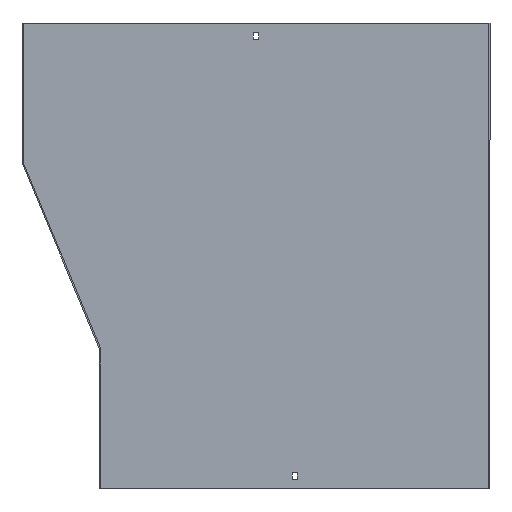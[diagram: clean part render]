
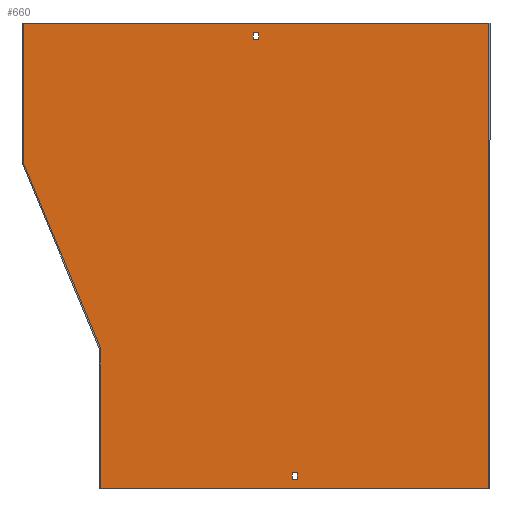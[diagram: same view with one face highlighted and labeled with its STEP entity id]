
A CAD part, front view. The second image highlights one B-rep face of the part: STEP entity #660.
In plain terms, the highlighted planar face has unit normal (0, -1, 0).
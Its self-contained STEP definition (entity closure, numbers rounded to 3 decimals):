
#4 = LINE ( 'NONE', #465, #566 ) ;
#12 = EDGE_CURVE ( 'NONE', #690, #378, #696, .T. ) ;
#20 = VECTOR ( 'NONE', #622, 1000. ) ;
#21 = VECTOR ( 'NONE', #139, 1000. ) ;
#22 = EDGE_CURVE ( 'NONE', #350, #256, #416, .T. ) ;
#31 = EDGE_CURVE ( 'NONE', #354, #49, #34, .T. ) ;
#32 = LINE ( 'NONE', #140, #530 ) ;
#34 = LINE ( 'NONE', #653, #591 ) ;
#46 = VECTOR ( 'NONE', #447, 1000. ) ;
#49 = VERTEX_POINT ( 'NONE', #649 ) ;
#55 = EDGE_CURVE ( 'NONE', #256, #690, #144, .T. ) ;
#62 = CARTESIAN_POINT ( 'NONE',  ( 3.25, -1.5, -21. ) ) ;
#65 = CARTESIAN_POINT ( 'NONE',  ( 0., -1.5, 0. ) ) ;
#66 = CARTESIAN_POINT ( 'NONE',  ( -300., -1.5, 0. ) ) ;
#71 = LINE ( 'NONE', #399, #485 ) ;
#72 = EDGE_CURVE ( 'NONE', #538, #610, #427, .T. ) ;
#79 = EDGE_CURVE ( 'NONE', #412, #354, #71, .T. ) ;
#85 = VECTOR ( 'NONE', #532, 1000. ) ;
#104 = EDGE_CURVE ( 'NONE', #524, #214, #276, .T. ) ;
#105 = ORIENTED_EDGE ( 'NONE', *, *, #72, .F. ) ;
#108 = DIRECTION ( 'NONE',  ( -1., 0., 0. ) ) ;
#119 = PLANE ( 'NONE',  #704 ) ;
#133 = ORIENTED_EDGE ( 'NONE', *, *, #136, .F. ) ;
#136 = EDGE_CURVE ( 'NONE', #378, #524, #676, .T. ) ;
#139 = DIRECTION ( 'NONE',  ( -1., 0., 0. ) ) ;
#140 = CARTESIAN_POINT ( 'NONE',  ( 53.25, -1.5, 0. ) ) ;
#144 = LINE ( 'NONE', #484, #294 ) ;
#154 = DIRECTION ( 'NONE',  ( 0., 0., 1. ) ) ;
#158 = DIRECTION ( 'NONE',  ( -1., 0., 0. ) ) ;
#159 = ORIENTED_EDGE ( 'NONE', *, *, #295, .F. ) ;
#164 = ORIENTED_EDGE ( 'NONE', *, *, #682, .F. ) ;
#168 = EDGE_LOOP ( 'NONE', ( #209, #133, #600, #204, #199, #159 ) ) ;
#175 = DIRECTION ( 'NONE',  ( 0., 0., 1. ) ) ;
#185 = CARTESIAN_POINT ( 'NONE',  ( 300., -1.5, -600. ) ) ;
#195 = DIRECTION ( 'NONE',  ( 0., 0., -1. ) ) ;
#199 = ORIENTED_EDGE ( 'NONE', *, *, #22, .F. ) ;
#204 = ORIENTED_EDGE ( 'NONE', *, *, #55, .F. ) ;
#209 = ORIENTED_EDGE ( 'NONE', *, *, #104, .F. ) ;
#214 = VERTEX_POINT ( 'NONE', #355 ) ;
#226 = DIRECTION ( 'NONE',  ( 0., 0., 1. ) ) ;
#227 = CARTESIAN_POINT ( 'NONE',  ( -200., -1.5, -419.7 ) ) ;
#237 = DIRECTION ( 'NONE',  ( 0., 0., 1. ) ) ;
#248 = ORIENTED_EDGE ( 'NONE', *, *, #605, .F. ) ;
#249 = ORIENTED_EDGE ( 'NONE', *, *, #31, .F. ) ;
#256 = VERTEX_POINT ( 'NONE', #302 ) ;
#260 = EDGE_CURVE ( 'NONE', #332, #412, #32, .T. ) ;
#271 = ORIENTED_EDGE ( 'NONE', *, *, #79, .F. ) ;
#276 = LINE ( 'NONE', #507, #46 ) ;
#282 = FACE_BOUND ( 'NONE', #307, .T. ) ;
#294 = VECTOR ( 'NONE', #154, 1000. ) ;
#295 = EDGE_CURVE ( 'NONE', #214, #350, #686, .T. ) ;
#302 = CARTESIAN_POINT ( 'NONE',  ( -200., -1.5, -600. ) ) ;
#307 = EDGE_LOOP ( 'NONE', ( #249, #271, #357, #527 ) ) ;
#318 = CARTESIAN_POINT ( 'NONE',  ( 0., -1.5, -12. ) ) ;
#332 = VERTEX_POINT ( 'NONE', #718 ) ;
#346 = EDGE_LOOP ( 'NONE', ( #519, #248, #105, #164 ) ) ;
#347 = FACE_OUTER_BOUND ( 'NONE', #168, .T. ) ;
#348 = VECTOR ( 'NONE', #400, 1000. ) ;
#350 = VERTEX_POINT ( 'NONE', #557 ) ;
#354 = VERTEX_POINT ( 'NONE', #536 ) ;
#355 = CARTESIAN_POINT ( 'NONE',  ( 300., -1.5, 0. ) ) ;
#357 = ORIENTED_EDGE ( 'NONE', *, *, #260, .F. ) ;
#371 = CARTESIAN_POINT ( 'NONE',  ( 3.25, -1.5, 0. ) ) ;
#378 = VERTEX_POINT ( 'NONE', #714 ) ;
#399 = CARTESIAN_POINT ( 'NONE',  ( 0., -1.5, -579. ) ) ;
#400 = DIRECTION ( 'NONE',  ( 1., 0., 0. ) ) ;
#407 = CARTESIAN_POINT ( 'NONE',  ( -3.25, -1.5, -21. ) ) ;
#412 = VERTEX_POINT ( 'NONE', #664 ) ;
#416 = LINE ( 'NONE', #488, #21 ) ;
#427 = LINE ( 'NONE', #371, #706 ) ;
#447 = DIRECTION ( 'NONE',  ( 1., 0., 0. ) ) ;
#464 = CARTESIAN_POINT ( 'NONE',  ( 0., -1.5, -21. ) ) ;
#465 = CARTESIAN_POINT ( 'NONE',  ( 0., -1.5, -588. ) ) ;
#478 = EDGE_CURVE ( 'NONE', #541, #586, #613, .T. ) ;
#484 = CARTESIAN_POINT ( 'NONE',  ( -200., -1.5, -420. ) ) ;
#485 = VECTOR ( 'NONE', #108, 1000. ) ;
#488 = CARTESIAN_POINT ( 'NONE',  ( -201.5, -1.5, -600. ) ) ;
#507 = CARTESIAN_POINT ( 'NONE',  ( 301.5, -1.5, 0. ) ) ;
#510 = CARTESIAN_POINT ( 'NONE',  ( -3.25, -1.5, -12. ) ) ;
#513 = LINE ( 'NONE', #464, #348 ) ;
#517 = DIRECTION ( 'NONE',  ( 1., 0., 0. ) ) ;
#519 = ORIENTED_EDGE ( 'NONE', *, *, #478, .F. ) ;
#523 = EDGE_CURVE ( 'NONE', #49, #332, #4, .T. ) ;
#524 = VERTEX_POINT ( 'NONE', #66 ) ;
#527 = ORIENTED_EDGE ( 'NONE', *, *, #523, .F. ) ;
#530 = VECTOR ( 'NONE', #237, 1000. ) ;
#532 = DIRECTION ( 'NONE',  ( -0.385, 0., 0.923 ) ) ;
#536 = CARTESIAN_POINT ( 'NONE',  ( 46.75, -1.5, -579. ) ) ;
#538 = VERTEX_POINT ( 'NONE', #62 ) ;
#541 = VERTEX_POINT ( 'NONE', #510 ) ;
#557 = CARTESIAN_POINT ( 'NONE',  ( 300., -1.5, -600. ) ) ;
#566 = VECTOR ( 'NONE', #517, 1000. ) ;
#570 = DIRECTION ( 'NONE',  ( 0., -1., 0. ) ) ;
#576 = DIRECTION ( 'NONE',  ( 0., 0., -1. ) ) ;
#578 = VECTOR ( 'NONE', #158, 1000. ) ;
#586 = VERTEX_POINT ( 'NONE', #407 ) ;
#591 = VECTOR ( 'NONE', #195, 1000. ) ;
#600 = ORIENTED_EDGE ( 'NONE', *, *, #12, .F. ) ;
#605 = EDGE_CURVE ( 'NONE', #610, #541, #662, .T. ) ;
#610 = VERTEX_POINT ( 'NONE', #716 ) ;
#613 = LINE ( 'NONE', #675, #20 ) ;
#614 = CARTESIAN_POINT ( 'NONE',  ( -300., -1.5, 0. ) ) ;
#620 = DIRECTION ( 'NONE',  ( 0., 0., -1. ) ) ;
#622 = DIRECTION ( 'NONE',  ( 0., 0., -1. ) ) ;
#639 = VECTOR ( 'NONE', #175, 1000. ) ;
#649 = CARTESIAN_POINT ( 'NONE',  ( 46.75, -1.5, -588. ) ) ;
#653 = CARTESIAN_POINT ( 'NONE',  ( 46.75, -1.5, 0. ) ) ;
#658 = CARTESIAN_POINT ( 'NONE',  ( -300.115, -1.5, -179.423 ) ) ;
#660 = ADVANCED_FACE ( 'NONE', ( #282, #680, #347 ), #119, .T. ) ;
#662 = LINE ( 'NONE', #318, #578 ) ;
#664 = CARTESIAN_POINT ( 'NONE',  ( 53.25, -1.5, -579. ) ) ;
#675 = CARTESIAN_POINT ( 'NONE',  ( -3.25, -1.5, 0. ) ) ;
#676 = LINE ( 'NONE', #614, #639 ) ;
#680 = FACE_BOUND ( 'NONE', #346, .T. ) ;
#682 = EDGE_CURVE ( 'NONE', #586, #538, #513, .T. ) ;
#686 = LINE ( 'NONE', #185, #693 ) ;
#690 = VERTEX_POINT ( 'NONE', #227 ) ;
#693 = VECTOR ( 'NONE', #576, 1000. ) ;
#696 = LINE ( 'NONE', #658, #85 ) ;
#704 = AXIS2_PLACEMENT_3D ( 'NONE', #65, #570, #620 ) ;
#706 = VECTOR ( 'NONE', #226, 1000. ) ;
#714 = CARTESIAN_POINT ( 'NONE',  ( -300., -1.5, -179.7 ) ) ;
#716 = CARTESIAN_POINT ( 'NONE',  ( 3.25, -1.5, -12. ) ) ;
#718 = CARTESIAN_POINT ( 'NONE',  ( 53.25, -1.5, -588. ) ) ;
